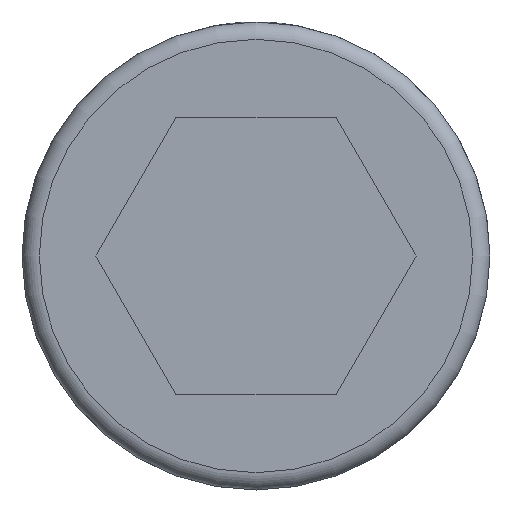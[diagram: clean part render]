
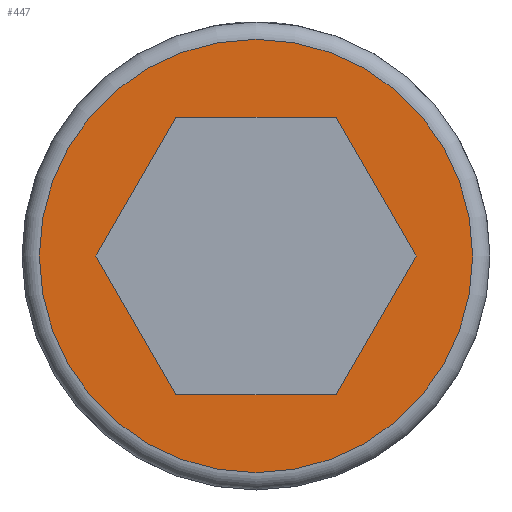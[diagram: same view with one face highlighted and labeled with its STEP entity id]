
A CAD part, left-side view. The second image highlights one B-rep face of the part: STEP entity #447.
In plain terms, the highlighted planar face has unit normal (-1, 0, 0).
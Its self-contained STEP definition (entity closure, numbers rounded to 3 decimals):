
#377=CARTESIAN_POINT('',(120.0,0.,25.));
#378=VERTEX_POINT('',#377);
#379=CARTESIAN_POINT('',(120.0,0.0,0.0));
#380=DIRECTION('',(1.0,0.0,0.0));
#381=DIRECTION('',(0.0,0.0,-1.0));
#382=AXIS2_PLACEMENT_3D('',#379,#380,#381);
#383=CIRCLE('',#382,25.);
#384=EDGE_CURVE('',#378,#378,#383,.T.);
#389=CARTESIAN_POINT('',(120.0,0.0,13.5));
#390=DIRECTION('',(-1.0,0.0,0.0));
#391=DIRECTION('',(0.0,0.0,1.0));
#392=AXIS2_PLACEMENT_3D('',#389,#390,#391);
#393=PLANE('',#392);
#394=ORIENTED_EDGE('',*,*,#384,.F.);
#395=EDGE_LOOP('',(#394));
#396=FACE_OUTER_BOUND('',#395,.T.);
#397=CARTESIAN_POINT('',(120.0,-9.238,-16.));
#398=VERTEX_POINT('',#397);
#399=CARTESIAN_POINT('',(120.0,9.238,-16.));
#400=VERTEX_POINT('',#399);
#401=CARTESIAN_POINT('',(120.0,-9.238,-16.));
#402=DIRECTION('',(0.0,1.0,0.0));
#403=VECTOR('',#402,18.475);
#404=LINE('',#401,#403);
#405=EDGE_CURVE('',#398,#400,#404,.T.);
#406=ORIENTED_EDGE('',*,*,#405,.T.);
#407=CARTESIAN_POINT('',(120.0,18.475,0.));
#408=VERTEX_POINT('',#407);
#409=CARTESIAN_POINT('',(120.0,9.238,-16.));
#410=DIRECTION('',(0.0,0.5,0.866));
#411=VECTOR('',#410,18.475);
#412=LINE('',#409,#411);
#413=EDGE_CURVE('',#400,#408,#412,.T.);
#414=ORIENTED_EDGE('',*,*,#413,.T.);
#415=CARTESIAN_POINT('',(120.0,9.238,16.));
#416=VERTEX_POINT('',#415);
#417=CARTESIAN_POINT('',(120.0,18.475,0.));
#418=DIRECTION('',(0.0,-0.5,0.866));
#419=VECTOR('',#418,18.475);
#420=LINE('',#417,#419);
#421=EDGE_CURVE('',#408,#416,#420,.T.);
#422=ORIENTED_EDGE('',*,*,#421,.T.);
#423=CARTESIAN_POINT('',(120.0,-9.238,16.));
#424=VERTEX_POINT('',#423);
#425=CARTESIAN_POINT('',(120.0,9.238,16.));
#426=DIRECTION('',(0.0,-1.0,0.0));
#427=VECTOR('',#426,18.475);
#428=LINE('',#425,#427);
#429=EDGE_CURVE('',#416,#424,#428,.T.);
#430=ORIENTED_EDGE('',*,*,#429,.T.);
#431=CARTESIAN_POINT('',(120.0,-18.475,0.));
#432=VERTEX_POINT('',#431);
#433=CARTESIAN_POINT('',(120.0,-9.238,16.));
#434=DIRECTION('',(0.0,-0.5,-0.866));
#435=VECTOR('',#434,18.475);
#436=LINE('',#433,#435);
#437=EDGE_CURVE('',#424,#432,#436,.T.);
#438=ORIENTED_EDGE('',*,*,#437,.T.);
#439=CARTESIAN_POINT('',(120.0,-18.475,0.));
#440=DIRECTION('',(0.0,0.5,-0.866));
#441=VECTOR('',#440,18.475);
#442=LINE('',#439,#441);
#443=EDGE_CURVE('',#432,#398,#442,.T.);
#444=ORIENTED_EDGE('',*,*,#443,.T.);
#445=EDGE_LOOP('',(#406,#414,#422,#430,#438,#444));
#446=FACE_BOUND('',#445,.T.);
#447=ADVANCED_FACE('',(#396,#446),#393,.T.);
